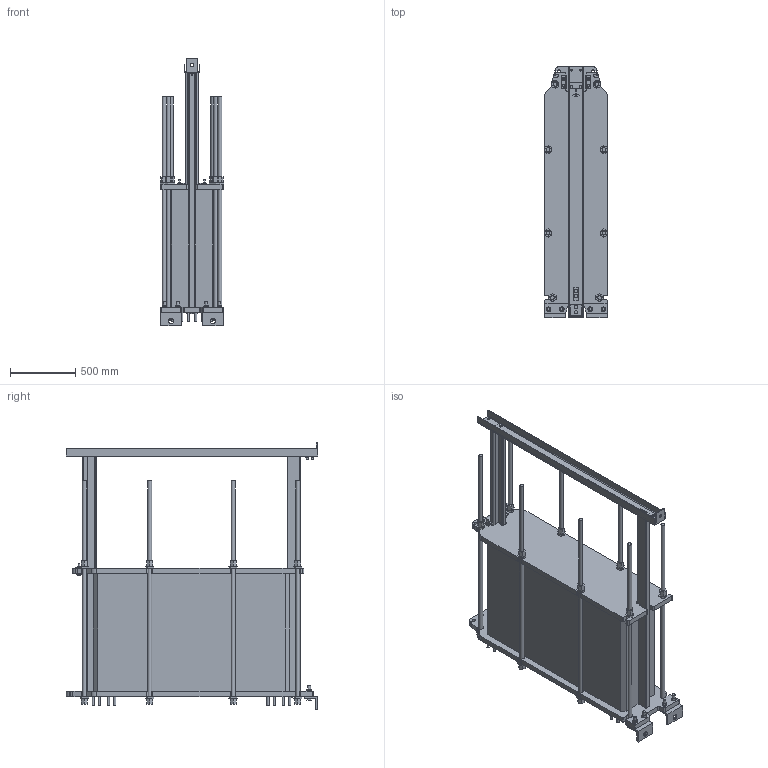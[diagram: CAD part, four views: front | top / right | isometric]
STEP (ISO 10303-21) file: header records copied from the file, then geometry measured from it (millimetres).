
FILE_DESCRIPTION((''),'2;1');
FILE_NAME('c:\temp\TL10_FG_LC1800_AL_01_REV0.stp','2009-06-24T12:11:41',('CNSHFLU'),(''),'Autodesk Inventor 2008','Autodesk Inventor 2008','');
FILE_SCHEMA(('AUTOMOTIVE_DESIGN { 1 0 10303 214 1 1 1 1 }'));
Length unit declared in the file: millimetre
Products named in the file (1): TL10
Bounding box: 483 x 1923 x 2045 mm (x, y, z)
Volume: 562200422.6 mm3; surface area: 11714071.9 mm2
Topology: 1 solids, 5 shells, 1389 faces, 3632 edges, 2404 vertices
Faces by surface type: plane 750, cylinder 350, bspline 287, cone 2
Full cylindrical faces by diameter (mm): 3.75 x4, 13 x8, 14 x6, 14.2 x2, 16 x34, 22 x9, 24 x10, 28 x1, 30 x8, 37 x4, 40 x2, 60 x1, 100 x4, 110 x4
Entity records: 42421 total; most frequent: CARTESIAN_POINT 8556, ORIENTED_EDGE 6970, DIRECTION 6489, EDGE_CURVE 3485, VECTOR 2687, LINE 2687, VERTEX_POINT 2386, AXIS2_PLACEMENT_3D 1901
